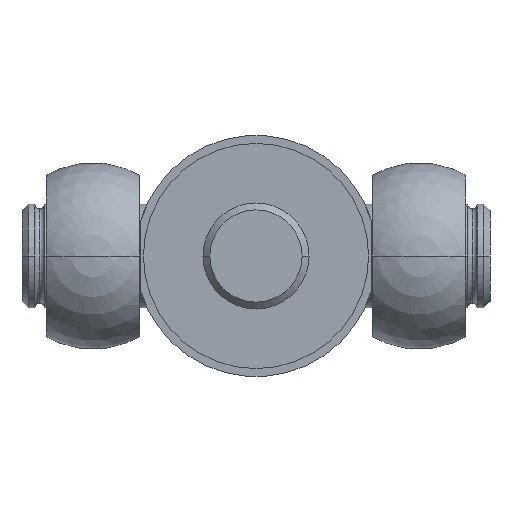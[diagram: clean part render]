
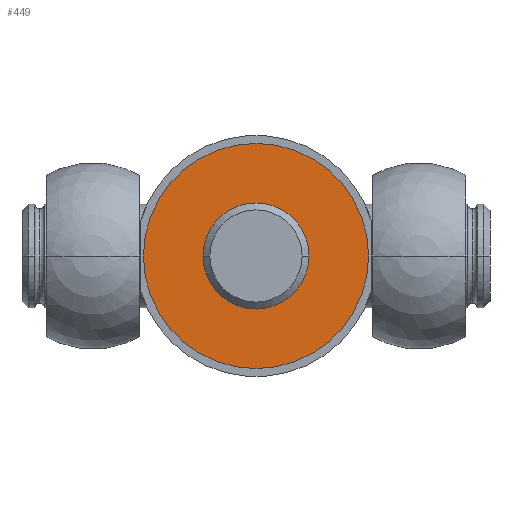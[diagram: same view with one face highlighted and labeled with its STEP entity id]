
A CAD part, front view. The second image highlights one B-rep face of the part: STEP entity #449.
In plain terms, the highlighted planar face has unit normal (0, -1, 0).
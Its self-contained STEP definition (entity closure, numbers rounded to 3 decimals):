
#449 = ADVANCED_FACE( '', ( #1222, #1223 ), #1224, .T. );
#491 = EDGE_CURVE( '', #717, #569, #1267, .T. );
#569 = VERTEX_POINT( '', #1354 );
#591 = EDGE_CURVE( '', #1133, #1037, #1379, .T. );
#717 = VERTEX_POINT( '', #1528 );
#897 = EDGE_CURVE( '', #1037, #1133, #1719, .T. );
#1037 = VERTEX_POINT( '', #1873 );
#1083 = EDGE_CURVE( '', #569, #717, #1924, .T. );
#1133 = VERTEX_POINT( '', #1981 );
#1222 = FACE_OUTER_BOUND( '', #2076, .T. );
#1223 = FACE_BOUND( '', #2077, .T. );
#1224 = PLANE( '', #2078 );
#1267 = CIRCLE( '', #2159, 16.5 );
#1354 = CARTESIAN_POINT( '', ( -16.5, 0., 0. ) );
#1379 = CIRCLE( '', #2330, 35. );
#1528 = CARTESIAN_POINT( '', ( 16.5, 0., 0. ) );
#1719 = CIRCLE( '', #2836, 35. );
#1873 = CARTESIAN_POINT( '', ( -35., 0., 0. ) );
#1924 = CIRCLE( '', #3178, 16.5 );
#1981 = CARTESIAN_POINT( '', ( 35., 0., 0. ) );
#2076 = EDGE_LOOP( '', ( #3364, #3365 ) );
#2077 = EDGE_LOOP( '', ( #3366, #3367 ) );
#2078 = AXIS2_PLACEMENT_3D( '', #3368, #3369, #3370 );
#2159 = AXIS2_PLACEMENT_3D( '', #3404, #3405, #3406 );
#2330 = AXIS2_PLACEMENT_3D( '', #3560, #3561, #3562 );
#2836 = AXIS2_PLACEMENT_3D( '', #3994, #3995, #3996 );
#3178 = AXIS2_PLACEMENT_3D( '', #4235, #4236, #4237 );
#3364 = ORIENTED_EDGE( '', *, *, #591, .F. );
#3365 = ORIENTED_EDGE( '', *, *, #897, .F. );
#3366 = ORIENTED_EDGE( '', *, *, #491, .T. );
#3367 = ORIENTED_EDGE( '', *, *, #1083, .T. );
#3368 = CARTESIAN_POINT( '', ( 25.75, 0., 0. ) );
#3369 = DIRECTION( '', ( 0., -1., 0. ) );
#3370 = DIRECTION( '', ( -1., 0., 0. ) );
#3404 = CARTESIAN_POINT( '', ( 0., 0., 0. ) );
#3405 = DIRECTION( '', ( 0., 1., 0. ) );
#3406 = DIRECTION( '', ( 1., 0., 0. ) );
#3560 = CARTESIAN_POINT( '', ( 0., 0., 0. ) );
#3561 = DIRECTION( '', ( 0., 1., 0. ) );
#3562 = DIRECTION( '', ( 1., 0., 0. ) );
#3994 = CARTESIAN_POINT( '', ( 0., 0., 0. ) );
#3995 = DIRECTION( '', ( 0., 1., 0. ) );
#3996 = DIRECTION( '', ( 1., 0., 0. ) );
#4235 = CARTESIAN_POINT( '', ( 0., 0., 0. ) );
#4236 = DIRECTION( '', ( 0., 1., 0. ) );
#4237 = DIRECTION( '', ( 1., 0., 0. ) );
